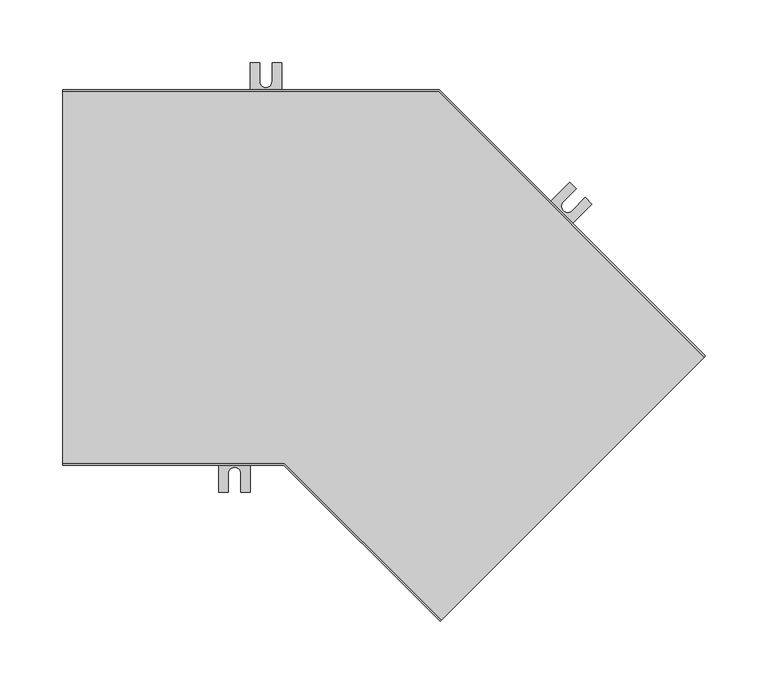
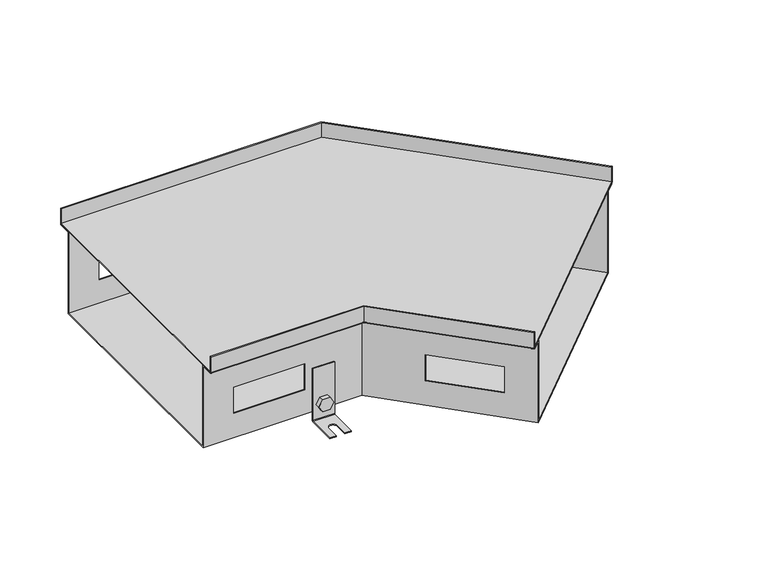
"""IFC4 building model written with IfcOpenShell, lengths in millimetres: proxy geometry, TECHNO_Угловой элемент_KVU : 300_120_135°."""

from ifc_helpers import new_model, si_unit, point, frame, frame_2d, origin, place, context, project, spatial, polyline, circle_curve, ellipse_curve, trimmed, segment, composite_curve, outline, extrude, source, transform, mapped, element, save
from ifc_brep_helpers import plane_surface, cylinder_surface, revolved_surface, advanced_brep


def mechanical_equipment_4d0b1c90(model_context):
    return source(origin(), model_context, "Body", "SolidModel", [
        extrude(outline(composite_curve([segment(trimmed(circle_curve(frame_2d((0.0, -7.5000001)), 7.5), [point((0.0, -15.0))], [point((0.0, 0.0))], False, "CARTESIAN"), True, "CONTINUOUS"), segment(trimmed(circle_curve(frame_2d((0.0, -7.5000001)), 7.5), [point((0.0, 0.0))], [point((0.0, -15.0))], False, "CARTESIAN"), True, "CONTINUOUS")], self_intersect=False)), frame((361.7404725, -31.0900467, -110.5), z_axis=(0.7071067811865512, 0.7071067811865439, 0.0), x_axis=(0.0, 0.0, 1.0)), (0.0, 0.0, 1.0), 1.5),
        extrude(outline(polyline([(0.0, 0.0), (8.660254, 1e-07), (12.990381, -7.5), (8.660254, -15.0), (0.0, -15.0), (-4.3301271, -7.4999999), (0.0, 0.0)])), frame((345.8586746, -24.1177942, -110.5), z_axis=(0.7071067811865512, 0.7071067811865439, 0.0), x_axis=(0.3535533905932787, -0.3535533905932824, -0.8660254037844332)), (0.0, 0.0, 1.0), 5.1),
        advanced_brep(
        [(364.4274783, -35.4741087, -65.5), (364.4274783, -35.4741087, -128.5), (363.8617928, -36.0397941, -129.3), (340.5272691, -59.3743179, -129.3), (340.5272691, -59.3743179, -130.5), (363.8617928, -36.0397941, -130.5), (365.2760064, -34.6255806, -128.5), (365.2760064, -34.6255806, -65.5), (346.7498087, -17.7964392, -65.5), (347.5983369, -16.947911, -65.5), (347.5983369, -16.947911, -128.5), (346.1841233, -18.3621246, -130.5), (322.8495995, -41.6966484, -130.5), (322.8495995, -41.6966484, -129.3), (346.1841233, -18.3621246, -129.3), (346.7498087, -17.7964392, -128.5), (328.1529004, -46.9999492, -129.3), (338.7595021, -36.3933475, -129.3), (345.8305699, -43.4644153, -129.3), (335.2239682, -54.0710171, -129.3), (335.2239682, -54.0710171, -130.5), (328.1529004, -46.9999492, -130.5), (345.8305699, -43.4644153, -130.5), (338.7595021, -36.3933475, -130.5)],
        [
            (0, 1),
            (1, 2, circle_curve(frame((363.8617928, -36.0397941, -128.5), z_axis=(-0.7071067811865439, 0.7071067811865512, 0.0), x_axis=(-0.7071067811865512, -0.7071067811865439, 0.0)), 0.8)),
            (2, 3),
            (3, 4),
            (4, 5),
            (5, 6, circle_curve(frame((363.8617928, -36.0397941, -128.5), z_axis=(0.7071067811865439, -0.7071067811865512, 0.0), x_axis=(-0.7071067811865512, -0.7071067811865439, 0.0)), 2.0)),
            (6, 7),
            (7, 0),
            (8, 9),
            (9, 10),
            (10, 11, circle_curve(frame((346.1841233, -18.3621246, -128.5), z_axis=(-0.7071067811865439, 0.7071067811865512, 0.0), x_axis=(-0.7071067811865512, -0.7071067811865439, 0.0)), 2.0)),
            (11, 12),
            (12, 13),
            (13, 14),
            (14, 15, circle_curve(frame((346.1841233, -18.3621246, -128.5), z_axis=(0.7071067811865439, -0.7071067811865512, 0.0), x_axis=(-0.7071067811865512, -0.7071067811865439, 0.0)), 0.8)),
            (15, 8),
            (0, 8),
            (15, 1),
            (14, 2),
            (13, 16),
            (16, 17),
            (17, 18, circle_curve(frame((342.295036, -39.9288814, -129.3), z_axis=(0.0, 0.0, -1.0), x_axis=(0.7071067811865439, -0.7071067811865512, 0.0)), 5.0)),
            (18, 19),
            (19, 3),
            (19, 20),
            (20, 4),
            (12, 21),
            (21, 16),
            (20, 22),
            (22, 23, circle_curve(frame((342.295036, -39.9288814, -130.5), z_axis=(0.0, 0.0, 1.0), x_axis=(0.7071067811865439, -0.7071067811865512, 0.0)), 5.0)),
            (23, 21),
            (11, 5),
            (10, 6),
            (9, 7),
            (23, 17),
            (18, 22),
        ],
        [
            plane_surface(frame((364.4274783, -35.4741087, -65.5), z_axis=(0.7071067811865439, -0.7071067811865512, 0.0), x_axis=(0.0, 0.0, -1.0))),
            plane_surface(frame((346.7498087, -17.7964392, -65.5), z_axis=(-0.7071067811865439, 0.7071067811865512, 0.0), x_axis=(0.0, 0.0, 1.0))),
            plane_surface(frame((364.4274783, -35.4741087, -65.5), z_axis=(-0.7071067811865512, -0.7071067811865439, 0.0), x_axis=(-0.7071067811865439, 0.7071067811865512, 0.0))),
            revolved_surface(polyline([(345.61843787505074, -18.92781002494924, -128.5), (363.29610742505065, -36.605479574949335, -128.5)]), (346.1841233, -18.3621246, -128.5), (-0.7071067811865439, 0.7071067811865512, 0.0)),
            plane_surface(frame((363.8617928, -36.0397941, -129.3), z_axis=(0.0, 0.0, 1.0), x_axis=(-0.7071067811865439, 0.7071067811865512, 0.0))),
            plane_surface(frame((340.5272691, -59.3743179, -129.3), z_axis=(-0.7071067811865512, -0.7071067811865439, 0.0), x_axis=(-0.7071067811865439, 0.7071067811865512, 0.0))),
            plane_surface(frame((340.5272691, -59.3743179, -130.5), z_axis=(0.0, 0.0, -1.0), x_axis=(-0.7071067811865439, 0.7071067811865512, 0.0))),
            cylinder_surface(frame((346.1841233, -18.3621246, -128.5), z_axis=(0.7071067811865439, -0.7071067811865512, 0.0), x_axis=(-0.7071067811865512, -0.7071067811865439, 0.0)), 2.0),
            plane_surface(frame((365.2760064, -34.6255806, -128.5), z_axis=(0.7071067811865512, 0.7071067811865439, 0.0), x_axis=(-0.7071067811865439, 0.7071067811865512, 0.0))),
            plane_surface(frame((365.2760064, -34.6255806, -65.5), z_axis=(0.0, 0.0, 1.0), x_axis=(-0.7071067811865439, 0.7071067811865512, 0.0))),
            plane_surface(frame((338.7595021, -36.3933475, -129.3), z_axis=(0.7071067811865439, -0.7071067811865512, 0.0), x_axis=(0.0, 0.0, -1.0))),
            plane_surface(frame((335.2239682, -54.0710171, -129.3), z_axis=(-0.707106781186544, 0.7071067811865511, 0.0), x_axis=(0.0, 0.0, -1.0))),
            revolved_surface(polyline([(345.8305699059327, -43.46441530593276, -129.3), (345.8305699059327, -43.46441530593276, -130.5)]), (342.295036, -39.9288814, -130.5), (0.0, 0.0, 1.0)),
        ],
        [
            (0, [[1, 2, 3, 4, 5, 6, 7, 8]]),
            (1, [[9, 10, 11, 12, 13, 14, 15, 16]]),
            (2, [[-1, 17, -16, 18]]),
            (3, [[-2, -18, -15, 19]]),
            (4, [[-3, -19, -14, 20, 21, 22, 23, 24]]),
            (5, [[-4, -24, 25, 26]]),
            (5, [[-13, 27, 28, -20]]),
            (6, [[-5, -26, 29, 30, 31, -27, -12, 32]]),
            (7, [[-6, -32, -11, 33]]),
            (8, [[-7, -33, -10, 34]]),
            (9, [[-8, -34, -9, -17]]),
            (10, [[35, -21, -28, -31]]),
            (11, [[36, -29, -25, -23]]),
            (12, [[-35, -30, -36, -22]]),
        ],
    ),
        extrude(outline(composite_curve([segment(trimmed(circle_curve(frame_2d((0.0, -7.5)), 7.5), [point((0.0, -15.0))], [point((0.0, 0.0))], False, "CARTESIAN"), True, "CONTINUOUS"), segment(trimmed(circle_curve(frame_2d((0.0, -7.5)), 7.5), [point((0.0, 0.0))], [point((0.0, -15.0))], False, "CARTESIAN"), True, "CONTINUOUS")], self_intersect=False)), frame((383.165808, 46.9038313, -110.5), z_axis=(0.7071067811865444, 0.7071067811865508, 0.0), x_axis=(0.0, 0.0, -1.0)), (0.0, 0.0, 1.0), 1.5),
        extrude(outline(polyline([(0.0, 0.0), (4.330127, -7.5), (0.0, -15.0), (-8.660254, -15.0), (-12.990381, -7.5), (-8.6602541, 0.0), (0.0, 0.0)])), frame((396.5020215, 37.3859944, -110.5), z_axis=(0.7071067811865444, 0.7071067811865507, 0.0), x_axis=(0.35355339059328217, -0.35355339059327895, 0.8660254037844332)), (0.0, 0.0, 1.0), 5.1),
        advanced_brep(
        [(381.5394624, 52.3485535, -65.5), (381.5394624, 52.3485535, -128.5), (382.1051478, 52.9142389, -129.3), (405.4396716, 76.2487627, -129.3), (405.4396716, 76.2487627, -130.5), (382.1051478, 52.9142389, -130.5), (380.6909342, 51.5000254, -128.5), (380.6909342, 51.5000254, -65.5), (399.2171319, 34.670884, -65.5), (398.3686038, 33.8223559, -65.5), (398.3686038, 33.8223559, -128.5), (399.7828173, 35.2365694, -130.5), (423.1173411, 58.5710932, -130.5), (423.1173411, 58.5710932, -129.3), (399.7828173, 35.2365694, -129.3), (399.2171319, 34.670884, -128.5), (417.8140403, 63.8743941, -129.3), (407.2074385, 53.2677923, -129.3), (400.1363707, 60.3388601, -129.3), (410.7429724, 70.9454619, -129.3), (410.7429724, 70.9454619, -130.5), (417.8140403, 63.8743941, -130.5), (400.1363707, 60.3388601, -130.5), (407.2074385, 53.2677923, -130.5)],
        [
            (0, 1),
            (1, 2, circle_curve(frame((382.1051478, 52.9142389, -128.5), z_axis=(0.7071067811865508, -0.7071067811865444, 0.0), x_axis=(0.7071067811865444, 0.7071067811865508, 0.0)), 0.8)),
            (2, 3),
            (3, 4),
            (4, 5),
            (5, 6, circle_curve(frame((382.1051478, 52.9142389, -128.5), z_axis=(-0.7071067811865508, 0.7071067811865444, 0.0), x_axis=(0.7071067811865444, 0.7071067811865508, 0.0)), 2.0)),
            (6, 7),
            (7, 0),
            (8, 9),
            (9, 10),
            (10, 11, circle_curve(frame((399.7828173, 35.2365694, -128.5), z_axis=(0.7071067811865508, -0.7071067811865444, 0.0), x_axis=(0.7071067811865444, 0.7071067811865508, 0.0)), 2.0)),
            (11, 12),
            (12, 13),
            (13, 14),
            (14, 15, circle_curve(frame((399.7828173, 35.2365694, -128.5), z_axis=(-0.7071067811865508, 0.7071067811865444, 0.0), x_axis=(0.7071067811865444, 0.7071067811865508, 0.0)), 0.8)),
            (15, 8),
            (0, 8),
            (15, 1),
            (14, 2),
            (13, 16),
            (16, 17),
            (17, 18, circle_curve(frame((403.6719046, 56.8033262, -129.3), z_axis=(0.0, 0.0, -1.0), x_axis=(-0.7071067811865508, 0.7071067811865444, 0.0)), 5.0)),
            (18, 19),
            (19, 3),
            (19, 20),
            (20, 4),
            (12, 21),
            (21, 16),
            (20, 22),
            (22, 23, circle_curve(frame((403.6719046, 56.8033262, -130.5), z_axis=(0.0, 0.0, 1.0), x_axis=(-0.7071067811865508, 0.7071067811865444, 0.0)), 5.0)),
            (23, 21),
            (11, 5),
            (10, 6),
            (9, 7),
            (23, 17),
            (18, 22),
        ],
        [
            plane_surface(frame((381.5394624, 52.3485535, -65.5), z_axis=(-0.7071067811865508, 0.7071067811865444, 0.0), x_axis=(0.0, 0.0, -1.0))),
            plane_surface(frame((399.2171319, 34.670884, -65.5), z_axis=(0.7071067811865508, -0.7071067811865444, 0.0), x_axis=(0.0, 0.0, 1.0))),
            plane_surface(frame((381.5394624, 52.3485535, -65.5), z_axis=(0.7071067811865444, 0.7071067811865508, 0.0), x_axis=(0.7071067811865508, -0.7071067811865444, 0.0))),
            revolved_surface(polyline([(400.3485027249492, 35.80225482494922, -128.5), (382.6708332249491, 53.47992432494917, -128.5)]), (399.7828173, 35.2365694, -128.5), (0.7071067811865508, -0.7071067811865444, 0.0)),
            plane_surface(frame((382.1051478, 52.9142389, -129.3), z_axis=(0.0, 0.0, 1.0000000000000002), x_axis=(0.7071067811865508, -0.7071067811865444, 0.0))),
            plane_surface(frame((405.4396716, 76.2487627, -129.3), z_axis=(0.7071067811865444, 0.7071067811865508, 0.0), x_axis=(0.7071067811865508, -0.7071067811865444, 0.0))),
            plane_surface(frame((405.4396716, 76.2487627, -130.5), z_axis=(0.0, 0.0, -1.0000000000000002), x_axis=(0.7071067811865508, -0.7071067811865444, 0.0))),
            cylinder_surface(frame((399.7828173, 35.2365694, -128.5), z_axis=(-0.7071067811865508, 0.7071067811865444, 0.0), x_axis=(0.7071067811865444, 0.7071067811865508, 0.0)), 2.0),
            plane_surface(frame((380.6909342, 51.5000254, -128.5), z_axis=(-0.7071067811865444, -0.7071067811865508, 0.0), x_axis=(0.7071067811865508, -0.7071067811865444, 0.0))),
            plane_surface(frame((380.6909342, 51.5000254, -65.5), z_axis=(0.0, 0.0, 1.0000000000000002), x_axis=(0.7071067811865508, -0.7071067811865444, 0.0))),
            plane_surface(frame((407.2074385, 53.2677923, -129.3), z_axis=(-0.7071067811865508, 0.7071067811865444, 0.0), x_axis=(0.0, 0.0, -1.0))),
            plane_surface(frame((410.7429724, 70.9454619, -129.3), z_axis=(0.7071067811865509, -0.7071067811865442, 0.0), x_axis=(0.0, 0.0, -1.0))),
            revolved_surface(polyline([(400.13637069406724, 60.338860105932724, -129.3), (400.13637069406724, 60.338860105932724, -130.5)]), (403.6719046, 56.8033262, -130.5), (0.0, 0.0, 1.0)),
        ],
        [
            (0, [[1, 2, 3, 4, 5, 6, 7, 8]]),
            (1, [[9, 10, 11, 12, 13, 14, 15, 16]]),
            (2, [[-1, 17, -16, 18]]),
            (3, [[-2, -18, -15, 19]]),
            (4, [[-3, -19, -14, 20, 21, 22, 23, 24]]),
            (5, [[-4, -24, 25, 26]]),
            (5, [[-13, 27, 28, -20]]),
            (6, [[-5, -26, 29, 30, 31, -27, -12, 32]]),
            (7, [[-6, -32, -11, 33]]),
            (8, [[-7, -33, -10, 34]]),
            (9, [[-8, -34, -9, -17]]),
            (10, [[35, -21, -28, -31]]),
            (11, [[36, -29, -25, -23]]),
            (12, [[-35, -30, -36, -22]]),
        ],
    ),
        extrude(outline(composite_curve([segment(trimmed(circle_curve(frame_2d((-110.5, 162.5)), 7.5), [point((-110.5, 155.0))], [point((-110.5, 170.0))], False, "CARTESIAN"), True, "CONTINUOUS"), segment(trimmed(circle_curve(frame_2d((-110.5, 162.5)), 7.5), [point((-110.5, 170.0))], [point((-110.5, 155.0))], False, "CARTESIAN"), True, "CONTINUOUS")], self_intersect=False)), frame((0.0, 135.2, 0.0), z_axis=(0.0, 1.0, 0.0), x_axis=(0.0, 0.0, 1.0)), (0.0, 0.0, 1.0), 1.5),
        extrude(outline(polyline([(-110.5, 153.839746), (-118.0, 158.169873), (-118.0, 166.830127), (-110.5, 171.160254), (-103.0, 166.830127), (-103.0, 158.169873), (-110.5, 153.839746)])), frame((0.0, 137.9, 0.0), z_axis=(0.0, 1.0, 0.0), x_axis=(0.0, 0.0, 1.0)), (0.0, 0.0, 1.0), 5.1),
        advanced_brep(
        [(175.0, 137.9, -65.5), (175.0, 136.7, -65.5), (175.0, 136.7, -128.5), (175.0, 138.7, -130.5), (175.0, 171.7, -130.5), (175.0, 171.7, -129.3), (175.0, 138.7, -129.3), (175.0, 137.9, -128.5), (150.0, 137.9, -65.5), (150.0, 137.9, -128.5), (150.0, 138.7, -129.3), (150.0, 171.7, -129.3), (150.0, 171.7, -130.5), (150.0, 138.7, -130.5), (150.0, 136.7, -128.5), (150.0, 136.7, -65.5), (167.5, 171.7, -129.3), (167.5, 156.7, -129.3), (157.5, 156.7, -129.3), (157.5, 171.7, -129.3), (157.5, 171.7, -130.5), (167.5, 171.7, -130.5), (157.5, 156.7, -130.5), (167.5, 156.7, -130.5)],
        [
            (0, 1),
            (1, 2),
            (2, 3, circle_curve(frame((175.0, 138.7, -128.5), z_axis=(1.0, 0.0, 0.0), x_axis=(0.0, 1.0, 0.0)), 2.0)),
            (3, 4),
            (4, 5),
            (5, 6),
            (6, 7, circle_curve(frame((175.0, 138.7, -128.5), z_axis=(-1.0, 0.0, 0.0), x_axis=(0.0, 1.0, 0.0)), 0.8)),
            (7, 0),
            (8, 9),
            (9, 10, circle_curve(frame((150.0, 138.7, -128.5), z_axis=(1.0, 0.0, 0.0), x_axis=(0.0, 1.0, 0.0)), 0.8)),
            (10, 11),
            (11, 12),
            (12, 13),
            (13, 14, circle_curve(frame((150.0, 138.7, -128.5), z_axis=(-1.0, 0.0, 0.0), x_axis=(0.0, 1.0, 0.0)), 2.0)),
            (14, 15),
            (15, 8),
            (7, 9),
            (8, 0),
            (6, 10),
            (5, 16),
            (16, 17),
            (17, 18, circle_curve(frame((162.5, 156.7, -129.3), z_axis=(0.0, 0.0, -1.0), x_axis=(1.0, 0.0, 0.0)), 5.0)),
            (18, 19),
            (19, 11),
            (19, 20),
            (20, 12),
            (4, 21),
            (21, 16),
            (3, 13),
            (20, 22),
            (22, 23, circle_curve(frame((162.5, 156.7, -130.5), z_axis=(0.0, 0.0, 1.0), x_axis=(1.0, 0.0, 0.0)), 5.0)),
            (23, 21),
            (2, 14),
            (1, 15),
            (18, 22),
            (23, 17),
        ],
        [
            plane_surface(frame((175.0, 137.9, -65.5), z_axis=(1.0, 0.0, 0.0), x_axis=(0.0, 0.0, -1.0))),
            plane_surface(frame((150.0, 137.9, -65.5), z_axis=(-1.0, 0.0, 0.0), x_axis=(0.0, 0.0, 1.0))),
            plane_surface(frame((175.0, 137.9, -65.5), z_axis=(0.0, 1.0, 0.0), x_axis=(-1.0, 0.0, 0.0))),
            revolved_surface(polyline([(150.0, 139.5, -128.5), (175.0, 139.5, -128.5)]), (150.0, 138.7, -128.5), (-1.0, 0.0, 0.0)),
            plane_surface(frame((175.0, 138.7, -129.3), z_axis=(0.0, 0.0, 1.0), x_axis=(-1.0, 0.0, 0.0))),
            plane_surface(frame((175.0, 171.7, -129.3), z_axis=(0.0, 1.0, 0.0), x_axis=(-1.0, 0.0, 0.0))),
            plane_surface(frame((175.0, 171.7, -130.5), z_axis=(0.0, 0.0, -1.0), x_axis=(-1.0, 0.0, 0.0))),
            cylinder_surface(frame((150.0, 138.7, -128.5), z_axis=(1.0, 0.0, 0.0), x_axis=(0.0, 1.0, 0.0)), 2.0),
            plane_surface(frame((175.0, 136.7, -128.5), z_axis=(0.0, -1.0, 0.0), x_axis=(-1.0, 0.0, 0.0))),
            plane_surface(frame((175.0, 136.7, -65.5), z_axis=(0.0, 0.0, 1.0), x_axis=(-1.0, 0.0, 0.0))),
            plane_surface(frame((157.5, 156.7, -129.3), z_axis=(1.0, 0.0, 0.0), x_axis=(0.0, 0.0, -1.0))),
            plane_surface(frame((167.5, 171.7, -129.3), z_axis=(-1.0, 0.0, 0.0), x_axis=(0.0, 0.0, -1.0))),
            revolved_surface(polyline([(167.5, 156.7, -129.3), (167.5, 156.7, -130.5)]), (162.5, 156.7, -130.5), (0.0, 0.0, 1.0)),
        ],
        [
            (0, [[1, 2, 3, 4, 5, 6, 7, 8]]),
            (1, [[9, 10, 11, 12, 13, 14, 15, 16]]),
            (2, [[17, -9, 18, -8]]),
            (3, [[19, -10, -17, -7]]),
            (4, [[20, 21, 22, 23, 24, -11, -19, -6]]),
            (5, [[-24, 25, 26, -12]]),
            (5, [[27, 28, -20, -5]]),
            (6, [[29, -13, -26, 30, 31, 32, -27, -4]]),
            (7, [[33, -14, -29, -3]]),
            (8, [[34, -15, -33, -2]]),
            (9, [[-18, -16, -34, -1]]),
            (10, [[-30, -25, -23, 35]]),
            (11, [[-21, -28, -32, 36]]),
            (12, [[-22, -36, -31, -35]]),
        ],
    ),
        extrude(outline(composite_curve([segment(trimmed(circle_curve(frame_2d((-110.5, 137.5)), 7.5), [point((-110.5, 130.0))], [point((-110.5, 145.0))], False, "CARTESIAN"), True, "CONTINUOUS"), segment(trimmed(circle_curve(frame_2d((-110.5, 137.5)), 7.5), [point((-110.5, 145.0))], [point((-110.5, 130.0))], False, "CARTESIAN"), True, "CONTINUOUS")], self_intersect=False)), frame((0.0, -136.7, 0.0), z_axis=(0.0, 1.0, 0.0), x_axis=(0.0, 0.0, 1.0)), (0.0, 0.0, 1.0), 1.5),
        extrude(outline(polyline([(-110.5, 128.839746), (-118.0, 133.169873), (-118.0, 141.830127), (-110.5, 146.160254), (-103.0, 141.830127), (-103.0, 133.169873), (-110.5, 128.839746)])), frame((0.0, -143.0, 0.0), z_axis=(0.0, 1.0, 0.0), x_axis=(0.0, 0.0, 1.0)), (0.0, 0.0, 1.0), 5.1),
        advanced_brep(
        [(150.0, -137.9, -65.5), (150.0, -137.9, -128.5), (150.0, -138.7, -129.3), (150.0, -171.7, -129.3), (150.0, -171.7, -130.5), (150.0, -138.7, -130.5), (150.0, -136.7, -128.5), (150.0, -136.7, -65.5), (125.0, -137.9, -65.5), (125.0, -136.7, -65.5), (125.0, -136.7, -128.5), (125.0, -138.7, -130.5), (125.0, -171.7, -130.5), (125.0, -171.7, -129.3), (125.0, -138.7, -129.3), (125.0, -137.9, -128.5), (132.5, -171.7, -129.3), (132.5, -156.7, -129.3), (142.5, -156.7, -129.3), (142.5, -171.7, -129.3), (142.5, -171.7, -130.5), (132.5, -171.7, -130.5), (142.5, -156.7, -130.5), (132.5, -156.7, -130.5)],
        [
            (0, 1),
            (1, 2, circle_curve(frame((150.0, -138.7, -128.5), z_axis=(-1.0, 0.0, 0.0), x_axis=(0.0, -1.0, 0.0)), 0.8)),
            (2, 3),
            (3, 4),
            (4, 5),
            (5, 6, circle_curve(frame((150.0, -138.7, -128.5), z_axis=(1.0, 0.0, 0.0), x_axis=(0.0, -1.0, 0.0)), 2.0)),
            (6, 7),
            (7, 0),
            (8, 9),
            (9, 10),
            (10, 11, circle_curve(frame((125.0, -138.7, -128.5), z_axis=(-1.0, 0.0, 0.0), x_axis=(0.0, -1.0, 0.0)), 2.0)),
            (11, 12),
            (12, 13),
            (13, 14),
            (14, 15, circle_curve(frame((125.0, -138.7, -128.5), z_axis=(1.0, 0.0, 0.0), x_axis=(0.0, -1.0, 0.0)), 0.8)),
            (15, 8),
            (0, 8),
            (15, 1),
            (14, 2),
            (13, 16),
            (16, 17),
            (17, 18, circle_curve(frame((137.5, -156.7, -129.3), z_axis=(0.0, 0.0, -1.0), x_axis=(1.0, 0.0, 0.0)), 5.0)),
            (18, 19),
            (19, 3),
            (19, 20),
            (20, 4),
            (12, 21),
            (21, 16),
            (20, 22),
            (22, 23, circle_curve(frame((137.5, -156.7, -130.5), z_axis=(0.0, 0.0, 1.0), x_axis=(1.0, 0.0, 0.0)), 5.0)),
            (23, 21),
            (11, 5),
            (10, 6),
            (9, 7),
            (23, 17),
            (18, 22),
        ],
        [
            plane_surface(frame((150.0, -137.9, -65.5), z_axis=(1.0, 0.0, 0.0), x_axis=(0.0, 0.0, -1.0))),
            plane_surface(frame((125.0, -137.9, -65.5), z_axis=(-1.0, 0.0, 0.0), x_axis=(0.0, 0.0, 1.0))),
            plane_surface(frame((150.0, -137.9, -65.5), z_axis=(0.0, -1.0, 0.0), x_axis=(-1.0, 0.0, 0.0))),
            revolved_surface(polyline([(125.0, -139.5, -128.5), (150.0, -139.5, -128.5)]), (125.0, -138.7, -128.5), (-1.0, 0.0, 0.0)),
            plane_surface(frame((150.0, -138.7, -129.3), z_axis=(0.0, 0.0, 1.0), x_axis=(-1.0, 0.0, 0.0))),
            plane_surface(frame((150.0, -171.7, -129.3), z_axis=(0.0, -1.0, 0.0), x_axis=(-1.0, 0.0, 0.0))),
            plane_surface(frame((150.0, -171.7, -130.5), z_axis=(0.0, 0.0, -1.0), x_axis=(-1.0, 0.0, 0.0))),
            cylinder_surface(frame((125.0, -138.7, -128.5), z_axis=(1.0, 0.0, 0.0), x_axis=(0.0, -1.0, 0.0)), 2.0),
            plane_surface(frame((150.0, -136.7, -128.5), z_axis=(0.0, 1.0, 0.0), x_axis=(-1.0, 0.0, 0.0))),
            plane_surface(frame((150.0, -136.7, -65.5), z_axis=(0.0, 0.0, 1.0), x_axis=(-1.0, 0.0, 0.0))),
            plane_surface(frame((132.5, -156.7, -129.3), z_axis=(1.0, 0.0, 0.0), x_axis=(0.0, 0.0, -1.0))),
            plane_surface(frame((142.5, -171.7, -129.3), z_axis=(-1.0, 0.0, 0.0), x_axis=(0.0, 0.0, -1.0))),
            revolved_surface(polyline([(142.5, -156.7, -129.3), (142.5, -156.7, -130.5)]), (137.5, -156.7, -130.5), (0.0, 0.0, 1.0)),
        ],
        [
            (0, [[1, 2, 3, 4, 5, 6, 7, 8]]),
            (1, [[9, 10, 11, 12, 13, 14, 15, 16]]),
            (2, [[-1, 17, -16, 18]]),
            (3, [[-2, -18, -15, 19]]),
            (4, [[-3, -19, -14, 20, 21, 22, 23, 24]]),
            (5, [[-4, -24, 25, 26]]),
            (5, [[-13, 27, 28, -20]]),
            (6, [[-5, -26, 29, 30, 31, -27, -12, 32]]),
            (7, [[-6, -32, -11, 33]]),
            (8, [[-7, -33, -10, 34]]),
            (9, [[-8, -34, -9, -17]]),
            (10, [[35, -21, -28, -31]]),
            (11, [[36, -29, -25, -23]]),
            (12, [[-35, -30, -36, -22]]),
        ],
    ),
        extrude(outline(polyline([(512.990613, -63.6876693), (302.5556349, -274.1226474), (177.2329876, -148.8), (0.0, -148.8), (0.0, 148.8), (300.5029437, 148.8), (512.990613, -63.6876693)])), frame((0.0, 0.0, -19.3), z_axis=(0.0, 0.0, 1.0), x_axis=(1.0, 0.0, 0.0)), (0.0, 0.0, 1.0), 1.2),
        advanced_brep(
        [(301.7071068, -274.9711755, -19.3), (302.5556349, -274.1226474, -20.5), (312.1722871, -264.5059951, -20.5), (312.1722871, -264.5059951, -120.0), (503.3739608, -73.3043215, -120.0), (503.3739608, -73.3043215, -20.5), (512.990613, -63.6876693, -20.5), (513.8391411, -62.8391411, -19.3), (513.8391411, -62.8391411, 0.0), (512.990613, -63.6876693, 0.0), (512.990613, -63.6876693, -19.3), (503.3739608, -73.3043215, -19.3), (502.5254326, -74.1528496, -20.5), (502.5254326, -74.1528496, -118.8), (313.0208153, -263.657467, -118.8), (313.0208153, -263.657467, -20.5), (312.1722871, -264.5059951, -19.3), (302.5556349, -274.1226474, -19.3), (302.5556349, -274.1226474, 0.0), (301.7071068, -274.9711755, 0.0), (0.0, -150.0, -19.3), (0.0, -150.0, 0.0), (0.0, -148.8, 0.0), (0.0, -148.8, -19.3), (0.0, -135.2, -19.3), (0.0, -134.0, -20.5), (0.0, -134.0, -118.8), (0.0, 134.0, -118.8), (0.0, 134.0, -20.5), (0.0, 135.2, -19.3), (0.0, 148.8, -19.3), (0.0, 148.8, 0.0), (0.0, 150.0, 0.0), (0.0, 150.0, -19.3), (0.0, 148.8, -20.5), (0.0, 135.2, -20.5), (0.0, 135.2, -120.0), (0.0, -135.2, -120.0), (0.0, -135.2, -20.5), (0.0, -148.8, -20.5), (177.2329876, -148.8, -20.5), (176.7359313, -150.0, -19.3), (177.2329876, -148.8, 0.0), (177.2329876, -148.8, -19.3), (182.866292, -135.2, -120.0), (182.866292, -135.2, -20.5), (35.0, -135.2, -58.0), (117.0, -135.2, -58.0), (117.0, -135.2, -90.0), (35.0, -135.2, -90.0), (183.3633483, -134.0, -20.5), (183.3633483, -134.0, -118.8), (117.0, -134.0, -58.0), (35.0, -134.0, -58.0), (35.0, -134.0, -90.0), (117.0, -134.0, -90.0), (182.866292, -135.2, -19.3), (229.4407937, -181.7745017, -58.0), (287.4235498, -239.7572578, -58.0), (287.4235498, -239.7572578, -90.0), (229.4407937, -181.7745017, -90.0), (294.8696393, 135.2, -120.0), (294.372583, 134.0, -118.8), (288.2720779, -238.9087297, -58.0), (230.2893219, -180.9259736, -58.0), (230.2893219, -180.9259736, -90.0), (288.2720779, -238.9087297, -90.0), (176.7359313, -150.0, 0.0), (294.8696393, 135.2, -20.5), (478.6252234, -48.5555842, -58.0), (420.6424674, 9.4271719, -58.0), (420.6424674, 9.4271719, -90.0), (478.6252234, -48.5555842, -90.0), (300.5029437, 148.8, -20.5), (301.0, 150.0, -19.3), (301.0, 150.0, 0.0), (300.5029437, 148.8, 0.0), (300.5029437, 148.8, -19.3), (294.8696393, 135.2, -19.3), (294.372583, 134.0, -20.5), (419.7939392, 8.5786438, -58.0), (477.7766953, -49.4041123, -58.0), (477.7766953, -49.4041123, -90.0), (419.7939392, 8.5786438, -90.0), (117.0, 135.2, -58.0), (35.0, 135.2, -58.0), (35.0, 135.2, -90.0), (117.0, 135.2, -90.0), (35.0, 134.0, -58.0), (117.0, 134.0, -58.0), (117.0, 134.0, -90.0), (35.0, 134.0, -90.0)],
        [
            (0, 1, circle_curve(frame((302.5556349, -274.1226474, -19.3), z_axis=(0.7071067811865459, -0.7071067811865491, 0.0), x_axis=(-0.7071067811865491, -0.7071067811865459, 0.0)), 1.2)),
            (1, 2),
            (2, 3),
            (3, 4),
            (4, 5),
            (5, 6),
            (6, 7, circle_curve(frame((512.990613, -63.6876693, -19.3), z_axis=(0.7071067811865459, -0.7071067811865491, 0.0), x_axis=(-0.7071067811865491, -0.7071067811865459, 0.0)), 1.2)),
            (7, 8),
            (8, 9),
            (9, 10),
            (10, 11),
            (11, 12, circle_curve(frame((503.3739608, -73.3043215, -20.5), z_axis=(0.7071067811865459, -0.7071067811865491, 0.0), x_axis=(-0.7071067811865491, -0.7071067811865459, 0.0)), 1.2)),
            (12, 13),
            (13, 14),
            (14, 15),
            (15, 16, circle_curve(frame((312.1722871, -264.5059951, -20.5), z_axis=(0.7071067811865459, -0.7071067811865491, 0.0), x_axis=(-0.7071067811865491, -0.7071067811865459, 0.0)), 1.2)),
            (16, 17),
            (17, 18),
            (18, 19),
            (19, 0),
            (20, 21),
            (21, 22),
            (22, 23),
            (23, 24),
            (24, 25, circle_curve(frame((0.0, -135.2, -20.5), z_axis=(-1.0, 0.0, 0.0), x_axis=(0.0, -1.0, 0.0)), 1.2)),
            (25, 26),
            (26, 27),
            (27, 28),
            (28, 29, circle_curve(frame((0.0, 135.2, -20.5), z_axis=(-1.0, 0.0, 0.0), x_axis=(0.0, -1.0, 0.0)), 1.2)),
            (29, 30),
            (30, 31),
            (31, 32),
            (32, 33),
            (33, 34, circle_curve(frame((0.0, 148.8, -19.3), z_axis=(-1.0, 0.0, 0.0), x_axis=(0.0, -1.0, 0.0)), 1.2)),
            (34, 35),
            (35, 36),
            (36, 37),
            (37, 38),
            (38, 39),
            (39, 20, circle_curve(frame((0.0, -148.8, -19.3), z_axis=(-1.0, 0.0, 0.0), x_axis=(0.0, -1.0, 0.0)), 1.2)),
            (39, 40),
            (40, 41, ellipse_curve(frame((177.2329876, -148.8, -19.3), z_axis=(-0.9238795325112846, 0.3826834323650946, 0.0), x_axis=(0.38268343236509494, 0.9238795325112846, 0.0)), 1.2988706, 1.2)),
            (41, 20),
            (22, 42),
            (42, 43),
            (43, 23),
            (37, 44),
            (44, 45),
            (45, 38),
            (46, 47),
            (47, 48),
            (48, 49),
            (49, 46),
            (25, 50),
            (50, 51),
            (51, 26),
            (52, 53),
            (53, 54),
            (54, 55),
            (55, 52),
            (24, 56),
            (56, 50, ellipse_curve(frame((182.866292, -135.2, -20.5), z_axis=(-0.9238795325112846, 0.3826834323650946, 0.0), x_axis=(0.38268343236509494, 0.9238795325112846, 0.0)), 1.2988706, 1.2)),
            (0, 41),
            (40, 1),
            (45, 2),
            (44, 3),
            (57, 58),
            (58, 59),
            (59, 60),
            (60, 57),
            (36, 61),
            (61, 4),
            (13, 62),
            (62, 27),
            (51, 14),
            (50, 15),
            (63, 64),
            (64, 65),
            (65, 66),
            (66, 63),
            (56, 16),
            (43, 17),
            (42, 18),
            (21, 67),
            (67, 19),
            (61, 68),
            (68, 5),
            (69, 70),
            (70, 71),
            (71, 72),
            (72, 69),
            (68, 35),
            (34, 73),
            (73, 6),
            (73, 74, ellipse_curve(frame((300.5029437, 148.8, -19.3), z_axis=(0.9238795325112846, -0.3826834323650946, 0.0), x_axis=(-0.38268343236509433, -0.9238795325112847, 0.0)), 1.2988706, 1.2)),
            (74, 7),
            (74, 75),
            (75, 8),
            (75, 32),
            (31, 76),
            (76, 9),
            (76, 77),
            (77, 10),
            (77, 30),
            (29, 78),
            (78, 11),
            (78, 79, ellipse_curve(frame((294.8696393, 135.2, -20.5), z_axis=(0.9238795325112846, -0.3826834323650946, 0.0), x_axis=(-0.38268343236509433, -0.9238795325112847, 0.0)), 1.2988706, 1.2)),
            (79, 12),
            (79, 62),
            (80, 81),
            (81, 82),
            (82, 83),
            (83, 80),
            (84, 85),
            (85, 86),
            (86, 87),
            (87, 84),
            (33, 74),
            (28, 79),
            (88, 89),
            (89, 90),
            (90, 91),
            (91, 88),
            (41, 67),
            (46, 53),
            (52, 47),
            (88, 85),
            (84, 89),
            (49, 54),
            (91, 86),
            (48, 55),
            (90, 87),
            (57, 64),
            (63, 58),
            (80, 70),
            (69, 81),
            (66, 59),
            (72, 82),
            (65, 60),
            (71, 83),
        ],
        [
            plane_surface(frame((407.773124, -168.9051583, 0.0), z_axis=(0.7071067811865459, -0.7071067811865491, 0.0), x_axis=(0.0, 0.0, 1.0))),
            plane_surface(frame((0.0, 0.0, 0.0), z_axis=(-1.0, 0.0, 0.0), x_axis=(0.0, 0.0, 1.0))),
            cylinder_surface(frame((238.8679656, -148.8, -19.3), z_axis=(1.0, 0.0, 0.0), x_axis=(0.0, -1.0, 0.0)), 1.2),
            plane_surface(frame((177.2329876, -148.8, -19.3), z_axis=(0.0, 1.0, 0.0), x_axis=(-1.0, 0.0, 0.0))),
            plane_surface(frame((182.866292, -135.2, -20.5), z_axis=(0.0, -1.0, 0.0), x_axis=(-1.0, 0.0, 0.0))),
            plane_surface(frame((183.3633483, -134.0, -118.8), z_axis=(0.0, 1.0, 0.0), x_axis=(-1.0, 0.0, 0.0))),
            cylinder_surface(frame((238.8679656, -135.2, -20.5), z_axis=(1.0, 0.0, 0.0), x_axis=(0.0, -1.0, 0.0)), 1.2),
            cylinder_surface(frame((302.5556349, -274.1226474, -19.3), z_axis=(0.7071067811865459, -0.7071067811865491, 0.0), x_axis=(-0.7071067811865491, -0.7071067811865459, 0.0)), 1.2),
            plane_surface(frame((302.5556349, -274.1226474, -20.5), z_axis=(0.0, 0.0, -1.0), x_axis=(-0.707106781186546, 0.7071067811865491, 0.0))),
            plane_surface(frame((312.1722871, -264.5059951, -20.5), z_axis=(-0.707106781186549, -0.7071067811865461, 0.0), x_axis=(-0.7071067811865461, 0.707106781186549, 0.0))),
            plane_surface(frame((312.1722871, -264.5059951, -120.0), z_axis=(0.0, 0.0, -1.0), x_axis=(-0.7071067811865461, 0.707106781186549, 0.0))),
            plane_surface(frame((502.5254326, -74.1528496, -118.8), z_axis=(0.0, 0.0, 1.0000000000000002), x_axis=(-0.7071067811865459, 0.7071067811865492, 0.0))),
            plane_surface(frame((313.0208153, -263.657467, -118.8), z_axis=(0.7071067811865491, 0.707106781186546, 0.0), x_axis=(-0.707106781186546, 0.7071067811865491, 0.0))),
            cylinder_surface(frame((312.1722871, -264.5059951, -20.5), z_axis=(0.7071067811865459, -0.7071067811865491, 0.0), x_axis=(-0.7071067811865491, -0.7071067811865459, 0.0)), 1.2),
            plane_surface(frame((312.1722871, -264.5059951, -19.3), z_axis=(0.0, 0.0, 1.0), x_axis=(-0.707106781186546, 0.7071067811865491, 0.0))),
            plane_surface(frame((302.5556349, -274.1226474, -19.3), z_axis=(0.7071067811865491, 0.707106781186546, 0.0), x_axis=(-0.707106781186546, 0.7071067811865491, 0.0))),
            plane_surface(frame((302.5556349, -274.1226474, 0.0), z_axis=(0.0, 0.0, 1.0), x_axis=(-0.707106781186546, 0.7071067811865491, 0.0))),
            plane_surface(frame((503.3739608, -73.3043215, -120.0), z_axis=(0.7071067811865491, 0.7071067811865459, 0.0), x_axis=(-0.7071067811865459, 0.7071067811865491, 0.0))),
            plane_surface(frame((503.3739608, -73.3043215, -20.5), z_axis=(0.0, 0.0, -1.0), x_axis=(-0.7071067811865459, 0.7071067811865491, 0.0))),
            cylinder_surface(frame((512.990613, -63.6876693, -19.3), z_axis=(0.7071067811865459, -0.7071067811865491, 0.0), x_axis=(-0.7071067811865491, -0.7071067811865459, 0.0)), 1.2),
            plane_surface(frame((513.8391411, -62.8391411, -19.3), z_axis=(0.707106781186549, 0.707106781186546, 0.0), x_axis=(-0.707106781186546, 0.707106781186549, 0.0))),
            plane_surface(frame((513.8391411, -62.8391411, 0.0), z_axis=(0.0, 0.0, 1.0), x_axis=(-0.707106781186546, 0.7071067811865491, 0.0))),
            plane_surface(frame((512.990613, -63.6876693, 0.0), z_axis=(-0.7071067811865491, -0.7071067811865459, 0.0), x_axis=(-0.7071067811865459, 0.7071067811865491, 0.0))),
            plane_surface(frame((512.990613, -63.6876693, -19.3), z_axis=(0.0, 0.0, 1.0), x_axis=(-0.7071067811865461, 0.707106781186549, 0.0))),
            cylinder_surface(frame((503.3739608, -73.3043215, -20.5), z_axis=(0.7071067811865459, -0.7071067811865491, 0.0), x_axis=(-0.7071067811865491, -0.7071067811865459, 0.0)), 1.2),
            plane_surface(frame((502.5254326, -74.1528496, -20.5), z_axis=(-0.7071067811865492, -0.7071067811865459, 0.0), x_axis=(-0.7071067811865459, 0.7071067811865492, 0.0))),
            plane_surface(frame((294.8696393, 135.2, -120.0), z_axis=(0.0, 1.0, 0.0), x_axis=(-1.0, 0.0, 0.0))),
            cylinder_surface(frame((238.8679656, 148.8, -19.3), z_axis=(1.0, 0.0, 0.0), x_axis=(0.0, -1.0, 0.0)), 1.2),
            plane_surface(frame((301.0, 150.0, -19.3), z_axis=(0.0, 1.0, 0.0), x_axis=(-1.0, 0.0, 0.0))),
            plane_surface(frame((300.5029437, 148.8, 0.0), z_axis=(0.0, -1.0, 0.0), x_axis=(-1.0, 0.0, 0.0))),
            cylinder_surface(frame((238.8679656, 135.2, -20.5), z_axis=(1.0, 0.0, 0.0), x_axis=(0.0, -1.0, 0.0)), 1.2),
            plane_surface(frame((294.372583, 134.0, -20.5), z_axis=(0.0, -1.0, 0.0), x_axis=(-1.0, 0.0, 0.0))),
            plane_surface(frame((176.7359313, -150.0, 0.0), z_axis=(0.0, -1.0, 0.0), x_axis=(-1.0, 0.0, 0.0))),
            plane_surface(frame((301.7071068, -274.9711755, 0.0), z_axis=(-0.7071067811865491, -0.7071067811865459, 0.0), x_axis=(-0.7071067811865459, 0.7071067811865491, 0.0))),
            plane_surface(frame((35.0, 150.0, -58.0), z_axis=(0.0, 0.0, -1.0), x_axis=(0.0, -1.0, 0.0))),
            plane_surface(frame((35.0, 150.0, -90.0), z_axis=(1.0, 0.0, 0.0), x_axis=(0.0, -1.0, 0.0))),
            plane_surface(frame((117.0, 150.0, -90.0), z_axis=(0.0, 0.0, 1.0), x_axis=(0.0, -1.0, 0.0))),
            plane_surface(frame((117.0, 150.0, -58.0), z_axis=(-1.0, 0.0, 0.0), x_axis=(0.0, -1.0, 0.0))),
            plane_surface(frame((431.1076477, 19.8923523, -58.0), z_axis=(0.0, 0.0, -1.0), x_axis=(-0.707106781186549, -0.707106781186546, 0.0))),
            plane_surface(frame((489.0904038, -38.0904038, -58.0), z_axis=(-0.707106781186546, 0.707106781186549, 0.0), x_axis=(-0.707106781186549, -0.707106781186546, 0.0))),
            plane_surface(frame((489.0904038, -38.0904038, -90.0), z_axis=(0.0, 0.0, 1.0), x_axis=(-0.707106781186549, -0.707106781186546, 0.0))),
            plane_surface(frame((431.1076477, 19.8923523, -90.0), z_axis=(0.707106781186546, -0.707106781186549, 0.0), x_axis=(-0.707106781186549, -0.707106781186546, 0.0))),
        ],
        [
            (0, [[1, 2, 3, 4, 5, 6, 7, 8, 9, 10, 11, 12, 13, 14, 15, 16, 17, 18, 19, 20]]),
            (1, [[21, 22, 23, 24, 25, 26, 27, 28, 29, 30, 31, 32, 33, 34, 35, 36, 37, 38, 39, 40]]),
            (2, [[-40, 41, 42, 43]]),
            (3, [[-23, 44, 45, 46]]),
            (4, [[-38, 47, 48, 49], [50, 51, 52, 53]]),
            (5, [[-26, 54, 55, 56], [57, 58, 59, 60]]),
            (6, [[-25, 61, 62, -54]]),
            (7, [[-1, 63, -42, 64]]),
            (8, [[-2, -64, -41, -39, -49, 65]]),
            (9, [[-3, -65, -48, 66], [67, 68, 69, 70]]),
            (10, [[-4, -66, -47, -37, 71, 72]]),
            (11, [[-14, 73, 74, -27, -56, 75]]),
            (12, [[-15, -75, -55, 76], [77, 78, 79, 80]]),
            (13, [[-16, -76, -62, 81]]),
            (14, [[-17, -81, -61, -24, -46, 82]]),
            (15, [[-18, -82, -45, 83]]),
            (16, [[-19, -83, -44, -22, 84, 85]]),
            (17, [[-5, -72, 86, 87], [88, 89, 90, 91]]),
            (18, [[-6, -87, 92, -35, 93, 94]]),
            (19, [[-7, -94, 95, 96]]),
            (20, [[-8, -96, 97, 98]]),
            (21, [[-9, -98, 99, -32, 100, 101]]),
            (22, [[-10, -101, 102, 103]]),
            (23, [[-11, -103, 104, -30, 105, 106]]),
            (24, [[-12, -106, 107, 108]]),
            (25, [[-13, -108, 109, -73], [110, 111, 112, 113]]),
            (26, [[-36, -92, -86, -71], [114, 115, 116, 117]]),
            (27, [[-34, 118, -95, -93]]),
            (28, [[-33, -99, -97, -118]]),
            (29, [[-31, -104, -102, -100]]),
            (30, [[-29, 119, -107, -105]]),
            (31, [[-28, -74, -109, -119], [120, 121, 122, 123]]),
            (32, [[-21, -43, 124, -84]]),
            (33, [[-20, -85, -124, -63]]),
            (34, [[125, -57, 126, -50]]),
            (34, [[127, -114, 128, -120]]),
            (35, [[-125, -53, 129, -58]]),
            (35, [[-127, -123, 130, -115]]),
            (36, [[-129, -52, 131, -59]]),
            (36, [[-130, -122, 132, -116]]),
            (37, [[-131, -51, -126, -60]]),
            (37, [[-132, -121, -128, -117]]),
            (38, [[133, -77, 134, -67]]),
            (38, [[135, -88, 136, -110]]),
            (39, [[-134, -80, 137, -68]]),
            (39, [[-136, -91, 138, -111]]),
            (40, [[-137, -79, 139, -69]]),
            (40, [[-138, -90, 140, -112]]),
            (41, [[-133, -70, -139, -78]]),
            (41, [[-135, -113, -140, -89]]),
        ],
    ),
    ])


if __name__ == "__main__":
    model = new_model("IFC4")
    model_context = context("Model", 3, world=origin())
    ifc_project = project(units=[si_unit("LENGTHUNIT", "METRE", prefix="MILLI")], contexts=[model_context])
    site = spatial("IfcSite", under=ifc_project)
    building = spatial("IfcBuilding", under=site)
    placement = place(None, origin())
    mechanical_equipment_shape = mechanical_equipment_4d0b1c90(model_context)
    element("IfcBuildingElementProxy", 1, Name="TECHNO_Угловой элемент_KVU : 300_120_135°", ObjectType="TECHNO_Угловой элемент_KVU : 300_120_135°", at=placement, inside=building, context=model_context, shape_type="MappedRepresentation", body=[
        mapped(mechanical_equipment_shape, transform((0.0, 0.0, 0.0), x_axis=(1.0, 0.0, 0.0), y_axis=(0.0, 1.0, 0.0), z_axis=(0.0, 0.0, 1.0))),
    ])
    save(model, "model.ifc")
